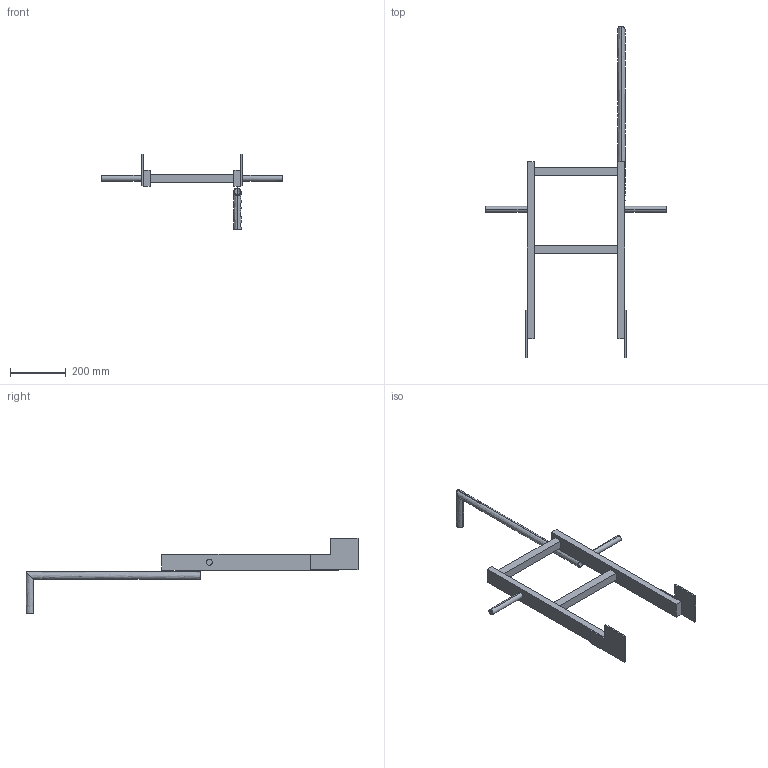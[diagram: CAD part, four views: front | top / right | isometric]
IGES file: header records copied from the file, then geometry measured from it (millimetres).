
Start section:  PTC IGES file: 52331257.igs
Global section: file name: 52331257.igs; native system: Creo Parametric by PTC Inc.; preprocessor: 2022162; author: wep; organization: Unknown; date: 20241218.090820; units: millimetre
Bounding box: 650 x 1190.45 x 271.35 mm (x, y, z)
Surface area: 463708.9 mm2 (no closed solid volume)
Topology: 0 solids, 0 shells, 52 faces, 256 edges, 256 vertices
Faces by surface type: bspline 40, revolution 12
